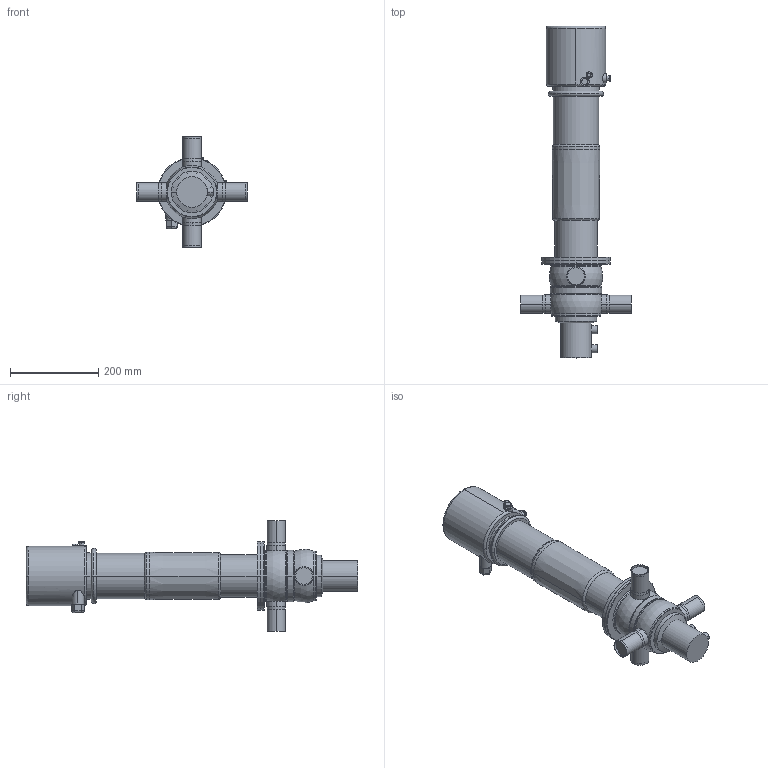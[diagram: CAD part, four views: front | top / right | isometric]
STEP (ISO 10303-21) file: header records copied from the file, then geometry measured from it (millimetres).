
FILE_DESCRIPTION(('Creo Elements/Direct Modeling STEP Export'),'2;1');
FILE_NAME('D44-40_CU4.stp','2019-09-03T14:51:12',(''),(''),'PTC Creo Elements/Direct Modeling STEP processor for AP214 (Solid Model)','PTC Creo Elements/Direct Modeling 19.0B 21-Mar-2015 (C) Parametric Technology GmbH','');
FILE_SCHEMA(('AUTOMOTIVE_DESIGN { 1 0 10303 214 1 1 1 1 }'));
Length unit declared in the file: millimetre
Products named in the file (5): CU41-D4; actuator_D4-100_yoke; drain_pipe-62; Housing_D44-40; D44-40_CU4
Assembly tree (4 placements, depth 2):
  D44-40_CU4
    Housing_D44-40
    drain_pipe-62
    actuator_D4-100_yoke
    CU41-D4
Bounding box: 250 x 750.7 x 250 mm (x, y, z)
Volume: 7580272.2 mm3; surface area: 431158 mm2
Topology: 4 solids, 4 shells, 260 faces, 609 edges, 383 vertices
Faces by surface type: cylinder 108, plane 61, torus 36, extrusion 33, cone 18, sphere 4
Entity records: 11258 total; most frequent: CARTESIAN_POINT 5690, ORIENTED_EDGE 1218, DIRECTION 1018, EDGE_CURVE 609, AXIS2_PLACEMENT_3D 399, VERTEX_POINT 383, EDGE_LOOP 286, FACE_OUTER_BOUND 260
